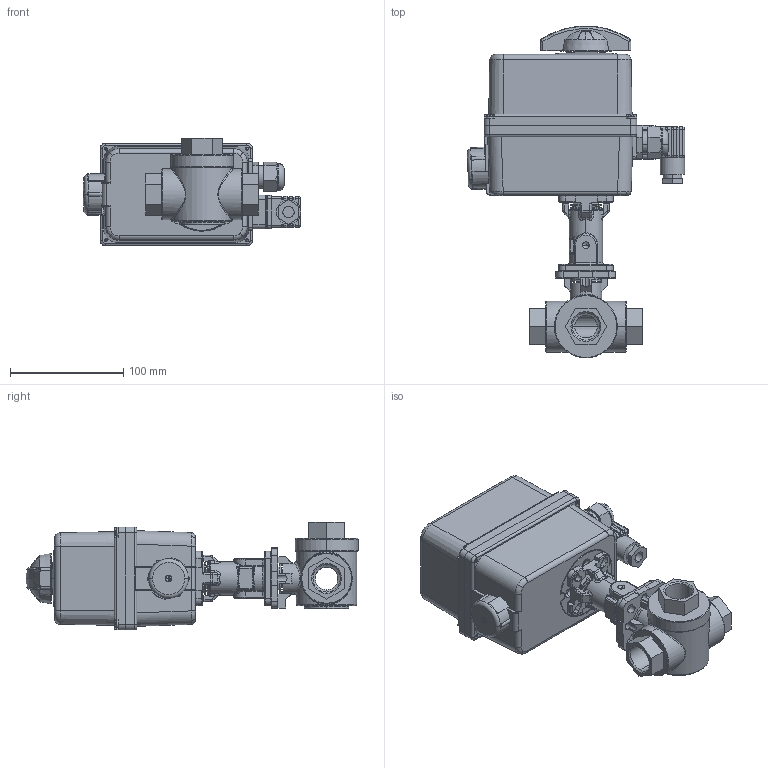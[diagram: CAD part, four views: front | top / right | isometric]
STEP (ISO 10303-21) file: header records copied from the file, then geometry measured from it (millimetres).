
FILE_DESCRIPTION (( 'STEP AP214' ), '1' );
FILE_NAME ('S57D DN20 + ER20 + verl.STEP', '2022-05-02T07:00:31', ( '' ), ( '' ), 'SwSTEP 2.0', 'SolidWorks 2018', '' );
FILE_SCHEMA (( 'AUTOMOTIVE_DESIGN' ));
Length unit declared in the file: millimetre
Products named in the file (33): S57D DN20 + ER20 + verl; S57D DN20-G3_4 FB; ER10-20-35 Connector 2; 35T044-10_E135T044-10104.STEP; ER10-20-35 Knop 2 - Rond; 305707-14_E2305707-1415G.STEP; ER10-20-35 Pakking; Schijf F03 F05; E4A-014VTN.STEP; ER10-20-35 Indicator yellow uitlijnbaar; ER10-20-35 Connector 1; ER10-20-35 Knop 3 - Lang; 39G5G5-10.STEP; 9ESTEMEX056 BS; ER10-20-35 Indicator; S57D DN20 G3_4 BS FB; Moer voor Connector 2; Warteldoorvoer M20; ER10-20-35 Indicator black uitlijnbaar; Connector ECD.1; ER10-20-35 Knop 1 - Declutch; ER10-20-35 Afdekkap; ER10-20-35 Aandrijving; E5UF-F96_E5UF-F96104002.STEP; ER10-20 Rond T Bore 1.2.3; 35T17B-10_E135T17B-10103.STEP; A439G-1010403.STEP; Bout M3x30; cross fh tapping 7976_din_Tapping screw DIN 7982-ST2.9x19-C-H-N; 35T100-10_E135T100-10104.STEP; 201808-14.STEP; sheet metal screws_din_Tapping screw DIN 7049-ST3.5x16-C-H-N; 39G052-10_B239G052-10236.STEP
Assembly tree (39 placements, depth 4):
  S57D DN20 + ER20 + verl
    S57D DN20 G3_4 BS FB
      S57D DN20-G3_4 FB
    9ESTEMEX056 BS
      A439G-1010403.STEP
        39G052-10_B239G052-10236.STEP
        E4A-014VTN.STEP
        39G5G5-10.STEP
        305707-14_E2305707-1415G.STEP
        201808-14.STEP
        35T100-10_E135T100-10104.STEP
        35T17B-10_E135T17B-10103.STEP  x2
        35T044-10_E135T044-10104.STEP
        E5UF-F96_E5UF-F96104002.STEP
    ER10-20 Rond T Bore 1.2.3
      ER10-20-35 Aandrijving
      ER10-20-35 Afdekkap
      sheet metal screws_din_Tapping screw DIN 7049-ST3.5x16-C-H-N  x4
      Schijf F03 F05
      ER10-20-35 Knop 1 - Declutch
      cross fh tapping 7976_din_Tapping screw DIN 7982-ST2.9x19-C-H-N
      ER10-20-35 Knop 3 - Lang
      ER10-20-35 Indicator  x2
      Connector ECD.1
        ER10-20-35 Pakking
        ER10-20-35 Connector 1
        ER10-20-35 Connector 2
        Bout M3x30
        Moer voor Connector 2
      Warteldoorvoer M20
      ER10-20-35 Knop 2 - Rond
      ER10-20-35 Indicator black uitlijnbaar
      ER10-20-35 Indicator yellow uitlijnbaar  x3
Bounding box: 192.34 x 293.8 x 95.46 mm (x, y, z)
Volume: 1670530.3 mm3; surface area: 234588.9 mm2
Topology: 34 solids, 34 shells, 2086 faces, 5462 edges, 3489 vertices
Faces by surface type: plane 749, cylinder 662, bspline 479, cone 118, torus 62, sphere 16
Entity records: 208475 total; most frequent: CARTESIAN_POINT 161574, ORIENTED_EDGE 10146, DIRECTION 8089, EDGE_CURVE 5073, VERTEX_POINT 3260, AXIS2_PLACEMENT_3D 2909, VECTOR 2271, LINE 2271
